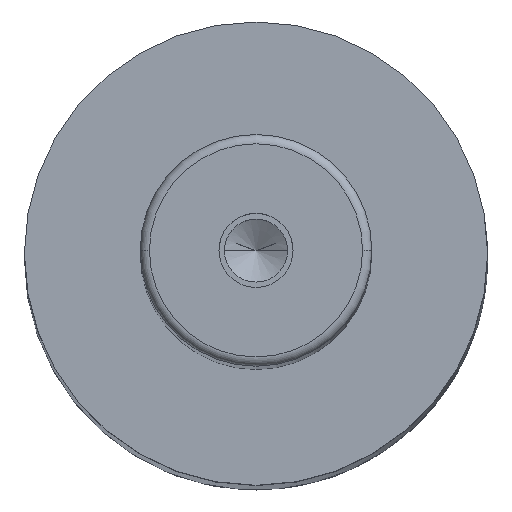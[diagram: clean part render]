
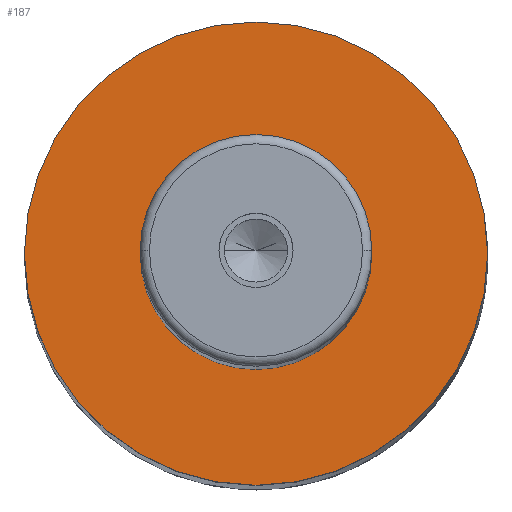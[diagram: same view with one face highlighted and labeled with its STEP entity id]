
A CAD part, top view. The second image highlights one B-rep face of the part: STEP entity #187.
In plain terms, the highlighted planar face has unit normal (0, 0, 1).
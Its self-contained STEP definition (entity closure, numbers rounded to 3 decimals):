
#109=PLANE('',#1002);
#132=FACE_BOUND('',#299,.T.);
#133=FACE_BOUND('',#300,.T.);
#187=ADVANCED_FACE('',(#132,#133),#109,.T.);
#299=EDGE_LOOP('',(#463,#464));
#300=EDGE_LOOP('',(#465,#466));
#367=CIRCLE('',#996,12.5);
#368=CIRCLE('',#998,12.5);
#369=CIRCLE('',#1000,25.);
#370=CIRCLE('',#1001,25.);
#463=ORIENTED_EDGE('',*,*,#766,.F.);
#464=ORIENTED_EDGE('',*,*,#767,.F.);
#465=ORIENTED_EDGE('',*,*,#765,.T.);
#466=ORIENTED_EDGE('',*,*,#763,.T.);
#676=VERTEX_POINT('',#1435);
#677=VERTEX_POINT('',#1437);
#678=VERTEX_POINT('',#1443);
#679=VERTEX_POINT('',#1444);
#763=EDGE_CURVE('',#677,#676,#367,.T.);
#765=EDGE_CURVE('',#676,#677,#368,.T.);
#766=EDGE_CURVE('',#678,#679,#369,.T.);
#767=EDGE_CURVE('',#679,#678,#370,.T.);
#996=AXIS2_PLACEMENT_3D('',#1436,#1150,#1151);
#998=AXIS2_PLACEMENT_3D('',#1440,#1155,#1156);
#1000=AXIS2_PLACEMENT_3D('',#1442,#1159,#1160);
#1001=AXIS2_PLACEMENT_3D('',#1445,#1161,#1162);
#1002=AXIS2_PLACEMENT_3D('',#1446,#1163,#1164);
#1150=DIRECTION('',(0.,0.,-1.));
#1151=DIRECTION('',(0.,1.,0.));
#1155=DIRECTION('',(0.,0.,-1.));
#1156=DIRECTION('',(0.,-1.,0.));
#1159=DIRECTION('',(0.,0.,-1.));
#1160=DIRECTION('',(0.,1.,0.));
#1161=DIRECTION('',(0.,0.,-1.));
#1162=DIRECTION('',(0.,-1.,0.));
#1163=DIRECTION('',(0.,0.,1.));
#1164=DIRECTION('',(0.,-1.,0.));
#1435=CARTESIAN_POINT('',(-12.5,0.,292.));
#1436=CARTESIAN_POINT('',(0.,0.,292.));
#1437=CARTESIAN_POINT('',(12.5,0.,292.));
#1440=CARTESIAN_POINT('',(0.,0.,292.));
#1442=CARTESIAN_POINT('',(0.,0.,292.));
#1443=CARTESIAN_POINT('',(25.,0.,292.));
#1444=CARTESIAN_POINT('',(-25.,0.,292.));
#1445=CARTESIAN_POINT('',(0.,0.,292.));
#1446=CARTESIAN_POINT('',(0.,0.,292.));
